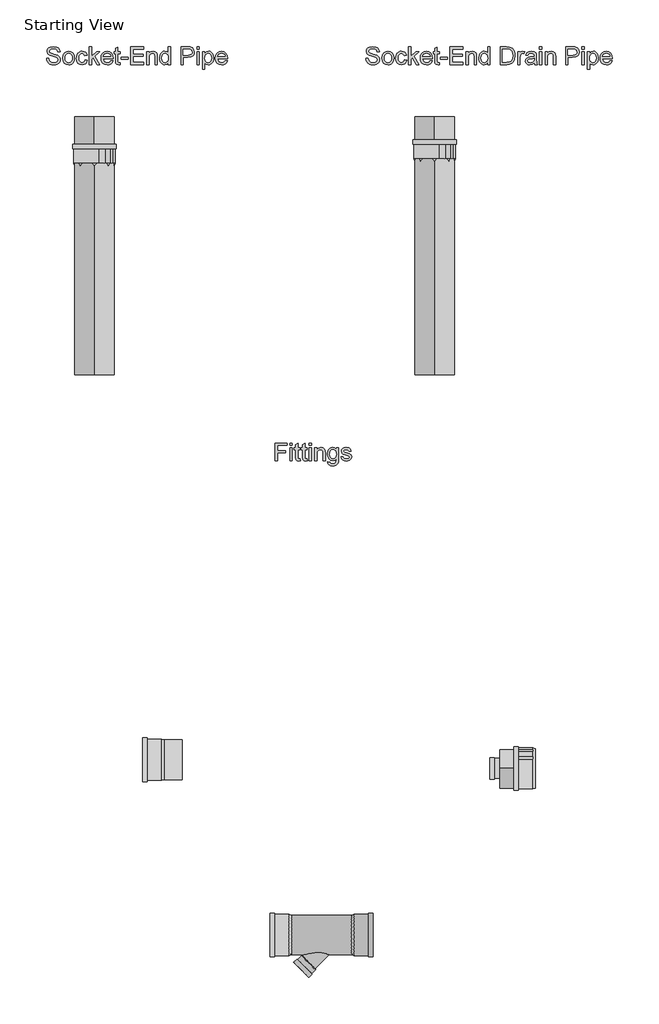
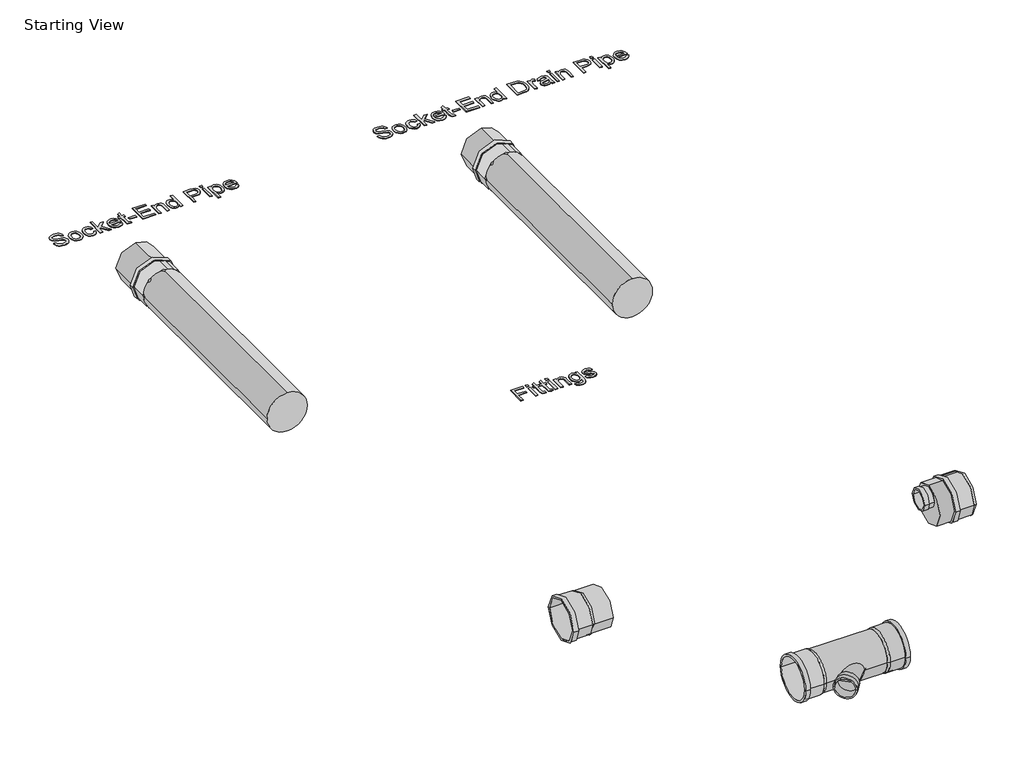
# One storey, incomplete: 7 pipe fittings, 4 pipe segments.
"""IFC4 building model written with IfcOpenShell, lengths in millimetres."""

from ifc_helpers import new_model, si_unit, point, frame, frame_2d, origin, place, context, project, spatial, circle_curve, trimmed, segment, composite_curve, outline, extrude, transform, mapped, element, save
from components import pipe_fitting_3b8126a7, black_066bcdc2, black_22d9a25e, pif_x_stream_pipe_socket_wavin_black_2128e3df, z_starting_view_new_start_4_74379c6d, z_starting_view_new_start_4_13a43d8e

model = new_model("IFC4")

# Units and contexts
model_context = context("Model", 3, world=origin())
ifc_project = project(units=[si_unit("LENGTHUNIT", "METRE", prefix="MILLI")], contexts=[model_context])

# Site, building, storey
site = spatial("IfcSite", under=ifc_project)
building = spatial("IfcBuilding", under=site)
storey = spatial("IfcBuildingStorey", under=building, Name="Starting View", Elevation=0.0)

# Pipe fittings
placement = place(None, origin())
pipe_fitting_shape = pipe_fitting_3b8126a7(model_context)
element("IfcPipeFitting", 1, ObjectType="PIF_X-Stream_TransitionTee_X-Stream-PVC_Wavin : Socket End - Black RAL9200 - Tee 45°", at=placement, inside=storey, context=model_context, shape_type="MappedRepresentation", body=[
    mapped(pipe_fitting_shape, transform((3419.9910644, 2169.1612977, 0.0), x_axis=(1.0, 0.0, 0.0), y_axis=(0.0, 1.0, 0.0), z_axis=(0.0, 0.0, 1.0))),
])
black_shape = black_066bcdc2(model_context)
element("IfcPipeFitting", 2, ObjectType="PIF_X-Stream_TransitionReducer_PlainEnd_X-Stream-PVC_Wavin_(union) : Black", at=placement, inside=storey, context=model_context, shape_type="MappedRepresentation", body=[
    mapped(black_shape, transform((4955.7349153, 3587.7055146, 0.0), x_axis=(1.0, 0.0, 0.0), y_axis=(0.0, 1.0, 0.0), z_axis=(0.0, 0.0, 1.0))),
])
black_2_shape = black_22d9a25e(model_context)
element("IfcPipeFitting", 3, ObjectType="PIF_X-Stream_TransitionCoupler_SocketEnd_X-Stream-PVC_Wavin_(union) : Black", at=placement, inside=storey, context=model_context, shape_type="MappedRepresentation", body=[
    mapped(black_2_shape, transform((2019.9601204, 3661.3285442, 0.0), x_axis=(1.0, 0.0, 0.0), y_axis=(0.0, 1.0, 0.0), z_axis=(0.0, 0.0, 1.0))),
])
pif_x_stream_pipe_socket_wavin_black_shape = pif_x_stream_pipe_socket_wavin_black_2128e3df(model_context)
element("IfcPipeFitting", 4, ObjectType="PIF_X-Stream_Pipe_Socket_Wavin : Black", at=placement, inside=storey, context=model_context, shape_type="MappedRepresentation", body=[
    mapped(pif_x_stream_pipe_socket_wavin_black_shape, transform((1358.8941538, 8738.6575499, 0.0), x_axis=(0.0, -1.0, 0.0), y_axis=(1.0, 0.0, 0.0), z_axis=(0.0, 0.0, 1.0))),
])
element("IfcPipeFitting", 5, ObjectType="PIF_X-Stream_Pipe_Socket_Wavin : Black", at=placement, inside=storey, context=model_context, shape_type="MappedRepresentation", body=[
    mapped(pif_x_stream_pipe_socket_wavin_black_shape, transform((4258.8941538, 8778.6575499, 0.0), x_axis=(0.0, -1.0, 0.0), y_axis=(1.0, 0.0, 0.0), z_axis=(0.0, 0.0, 1.0))),
])
z_starting_view_new_start_4_shape = z_starting_view_new_start_4_74379c6d(model_context)
element("IfcPipeFitting", 6, ObjectType="Z_Starting_View_New : Start_4", at=placement, inside=storey, context=model_context, shape_type="MappedRepresentation", body=[
    mapped(z_starting_view_new_start_4_shape, transform((-21012.191094, -1238.5908509, 0.0), x_axis=(1.0, 0.0, 0.0), y_axis=(0.0, 1.0, 0.0), z_axis=(0.0, 0.0, 1.0))),
])
z_starting_view_new_start_4_2_shape = z_starting_view_new_start_4_13a43d8e(model_context)
element("IfcPipeFitting", 7, ObjectType="Z_Starting_View_New : Start_4", at=placement, inside=storey, context=model_context, shape_type="MappedRepresentation", body=[
    mapped(z_starting_view_new_start_4_2_shape, transform((-21014.1409327, 2135.6306607, 0.0), x_axis=(1.0, 0.0, 0.0), y_axis=(0.0, 1.0, 0.0), z_axis=(0.0, 0.0, 1.0))),
])

# Pipe segments
element("IfcPipeSegment", 8, ObjectType="PI_Wavin X-Stream Pipe, Black, RAL 9200, Socket End DN 100-800", at=placement, inside=storey, context=model_context, shape_type="SweptSolid", body=[
    extrude(outline(composite_curve([segment(trimmed(circle_curve(frame_2d((0.0, 1358.8941538)), 169.0), [point((0.0, 1189.8941538))], [point((-169.0, 1358.8941538))], False, "CARTESIAN"), True, "CONTINUOUS"), segment(trimmed(circle_curve(frame_2d((0.0, 1358.8941538)), 169.0), [point((-169.0, 1358.8941538))], [point((0.0, 1527.8941538))], False, "CARTESIAN"), True, "CONTINUOUS"), segment(trimmed(circle_curve(frame_2d((0.0, 1358.8941538)), 169.0), [point((0.0, 1527.8941538))], [point((169.0, 1358.8941538))], False, "CARTESIAN"), True, "CONTINUOUS"), segment(trimmed(circle_curve(frame_2d((0.0, 1358.8941538)), 169.0), [point((169.0, 1358.8941538))], [point((0.0, 1189.8941538))], False, "CARTESIAN"), True, "CONTINUOUS")], self_intersect=False)), frame((0.0, 6938.6575499, 0.0), z_axis=(0.0, 1.0, 0.0), x_axis=(0.0, 0.0, 1.0)), (0.0, 0.0, 1.0), 1800.0),
])
element("IfcPipeSegment", 9, ObjectType="PI_Wavin X-Stream Drain Pipe, Black, RAL 9200, Socket End DN 100-300", at=placement, inside=storey, context=model_context, shape_type="SweptSolid", body=[
    extrude(outline(composite_curve([segment(trimmed(circle_curve(frame_2d((0.0, 4258.8941538)), 169.0), [point((0.0, 4089.8941538))], [point((-169.0, 4258.8941538))], False, "CARTESIAN"), True, "CONTINUOUS"), segment(trimmed(circle_curve(frame_2d((0.0, 4258.8941538)), 169.0), [point((-169.0, 4258.8941538))], [point((0.0, 4427.8941538))], False, "CARTESIAN"), True, "CONTINUOUS"), segment(trimmed(circle_curve(frame_2d((0.0, 4258.8941538)), 169.0), [point((0.0, 4427.8941538))], [point((169.0, 4258.8941538))], False, "CARTESIAN"), True, "CONTINUOUS"), segment(trimmed(circle_curve(frame_2d((0.0, 4258.8941538)), 169.0), [point((169.0, 4258.8941538))], [point((0.0, 4089.8941538))], False, "CARTESIAN"), True, "CONTINUOUS")], self_intersect=False)), frame((0.0, 6938.6575499, 0.0), z_axis=(0.0, 1.0, 0.0), x_axis=(0.0, 0.0, 1.0)), (0.0, 0.0, 1.0), 1840.0),
])
element("IfcPipeSegment", 10, ObjectType="PI_Wavin X-Stream Pipe, Black, RAL 9200, Socket End DN 100-800", at=placement, inside=storey, context=model_context, shape_type="SweptSolid", body=[
    extrude(outline(composite_curve([segment(trimmed(circle_curve(frame_2d((0.0, 1358.8941538)), 169.0), [point((0.0, 1189.8941538))], [point((-169.0, 1358.8941538))], False, "CARTESIAN"), True, "CONTINUOUS"), segment(trimmed(circle_curve(frame_2d((0.0, 1358.8941538)), 169.0), [point((-169.0, 1358.8941538))], [point((0.0, 1527.8941538))], False, "CARTESIAN"), True, "CONTINUOUS"), segment(trimmed(circle_curve(frame_2d((0.0, 1358.8941538)), 169.0), [point((0.0, 1527.8941538))], [point((169.0, 1358.8941538))], False, "CARTESIAN"), True, "CONTINUOUS"), segment(trimmed(circle_curve(frame_2d((0.0, 1358.8941538)), 169.0), [point((169.0, 1358.8941538))], [point((0.0, 1189.8941538))], False, "CARTESIAN"), True, "CONTINUOUS")], self_intersect=False)), frame((0.0, 8738.6575499, 0.0), z_axis=(0.0, 1.0, 0.0), x_axis=(0.0, 0.0, 1.0)), (0.0, 0.0, 1.0), 400.0),
])
element("IfcPipeSegment", 11, ObjectType="PI_Wavin X-Stream Drain Pipe, Black, RAL 9200, Socket End DN 100-300", at=placement, inside=storey, context=model_context, shape_type="SweptSolid", body=[
    extrude(outline(composite_curve([segment(trimmed(circle_curve(frame_2d((0.0, 4258.8941538)), 169.0), [point((0.0, 4089.8941538))], [point((-169.0, 4258.8941538))], False, "CARTESIAN"), True, "CONTINUOUS"), segment(trimmed(circle_curve(frame_2d((0.0, 4258.8941538)), 169.0), [point((-169.0, 4258.8941538))], [point((0.0, 4427.8941538))], False, "CARTESIAN"), True, "CONTINUOUS"), segment(trimmed(circle_curve(frame_2d((0.0, 4258.8941538)), 169.0), [point((0.0, 4427.8941538))], [point((169.0, 4258.8941538))], False, "CARTESIAN"), True, "CONTINUOUS"), segment(trimmed(circle_curve(frame_2d((0.0, 4258.8941538)), 169.0), [point((169.0, 4258.8941538))], [point((0.0, 4089.8941538))], False, "CARTESIAN"), True, "CONTINUOUS")], self_intersect=False)), frame((0.0, 8778.6575499, 0.0), z_axis=(0.0, 1.0, 0.0), x_axis=(0.0, 0.0, 1.0)), (0.0, 0.0, 1.0), 360.0),
])

save(model, "model.ifc")
